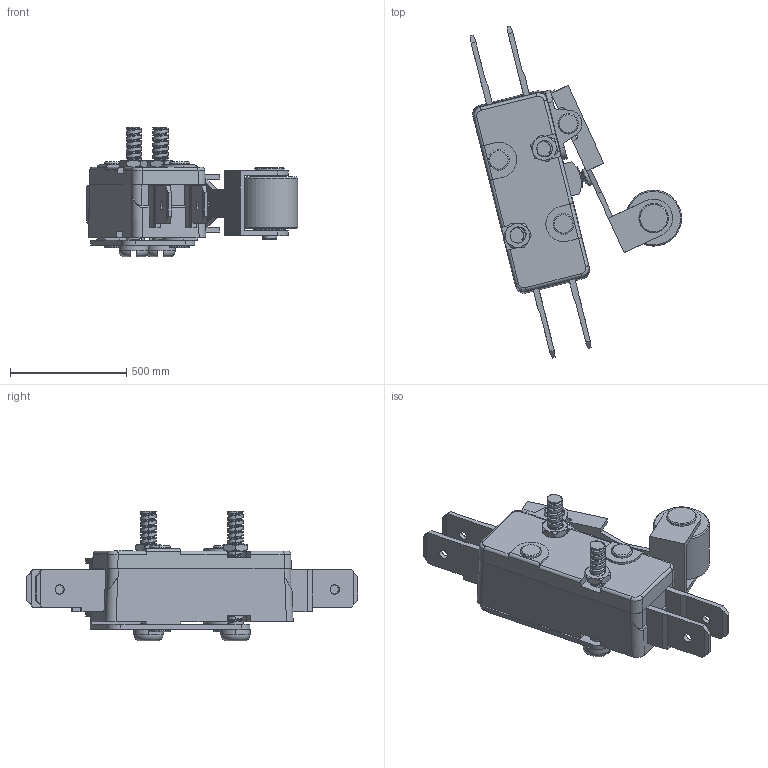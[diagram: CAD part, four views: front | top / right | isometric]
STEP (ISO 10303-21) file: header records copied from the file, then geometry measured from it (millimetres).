
FILE_DESCRIPTION((''),'2;1');
FILE_NAME('TW-1014A','2016-08-13T',('ABS'),(''),'PRO/ENGINEER BY PARAMETRIC TECHNOLOGY CORPORATION, 2012360','PRO/ENGINEER BY PARAMETRIC TECHNOLOGY CORPORATION, 2012360','');
FILE_SCHEMA(('CONFIG_CONTROL_DESIGN'));
Length unit declared in the file: inch
Products named in the file (1): TW-1014A
Bounding box: 910.64 x 1430.39 x 558.8 mm (x, y, z)
Volume: 104027383.4 mm3; surface area: 4589106.3 mm2
Topology: 2 solids, 15 shells, 879 faces, 2481 edges, 1589 vertices
Faces by surface type: plane 485, cylinder 288, bspline 48, sphere 26, torus 18, cone 14
Entity records: 38118 total; most frequent: CARTESIAN_POINT 15922, ORIENTED_EDGE 4910, DIRECTION 4202, EDGE_CURVE 2455, VERTEX_POINT 1589, VECTOR 1548, LINE 1548, AXIS2_PLACEMENT_3D 1327
